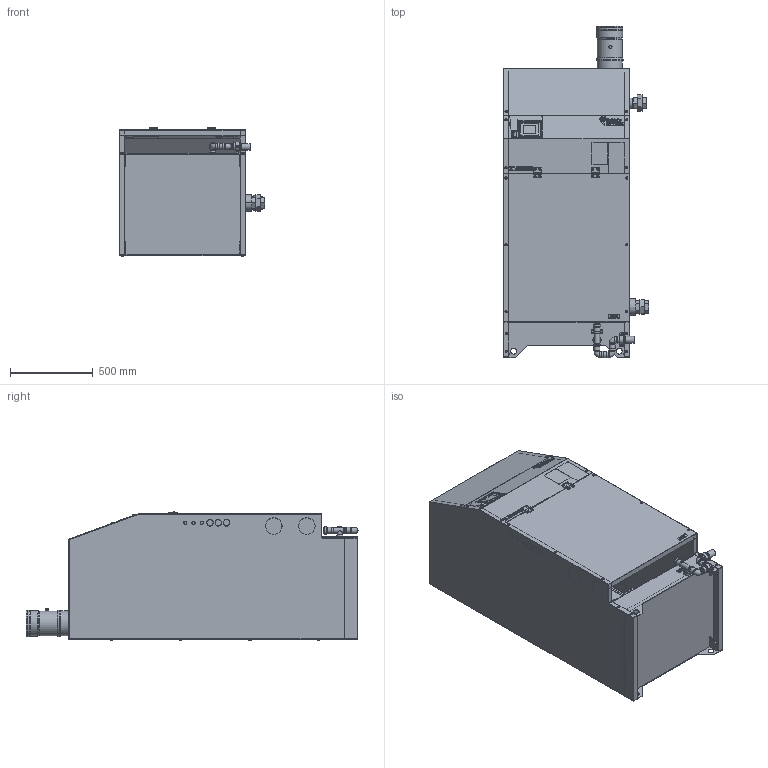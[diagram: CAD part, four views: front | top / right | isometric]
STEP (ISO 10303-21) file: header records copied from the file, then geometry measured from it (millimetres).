
FILE_DESCRIPTION (( 'STEP AP203' ), '1' );
FILE_NAME ('MDL 200-M-E.STEP', '2019-03-08T07:35:37', ( '' ), ( '' ), 'SwSTEP 2.0', 'SolidWorks 2019', '' );
FILE_SCHEMA (( 'CONFIG_CONTROL_DESIGN' ));
Products named in the file (1): MDL 200-M-E
Bounding box: 879.98 x 2011.5 x 777.06 mm (x, y, z)
Surface area: 12627483 mm2 (no closed solid volume)
Topology: 0 solids, 237 shells, 1064 faces, 6921 edges, 5937 vertices
Faces by surface type: plane 562, cylinder 254, torus 146, sphere 73, bspline 20, cone 9
Full cylindrical faces by diameter (mm): 8 x3, 12 x1, 14 x13, 18 x1, 32.5 x2, 34 x10, 35 x4, 36 x5, 36.5 x1, 38 x1, 40 x5, 44 x1, 45 x2, 45.3 x1, 50 x1, 60.3 x3, 66.3 x1, 148 x1, 150 x1, 152 x1, 154 x2, 156 x2, 158 x1, 160 x1, 162 x1
Entity records: 78175 total; most frequent: CARTESIAN_POINT 29004, DIRECTION 9282, ORIENTED_EDGE 7997, EDGE_CURVE 6700, VERTEX_POINT 5879, VECTOR 4094, LINE 4094, AXIS2_PLACEMENT_3D 2594
